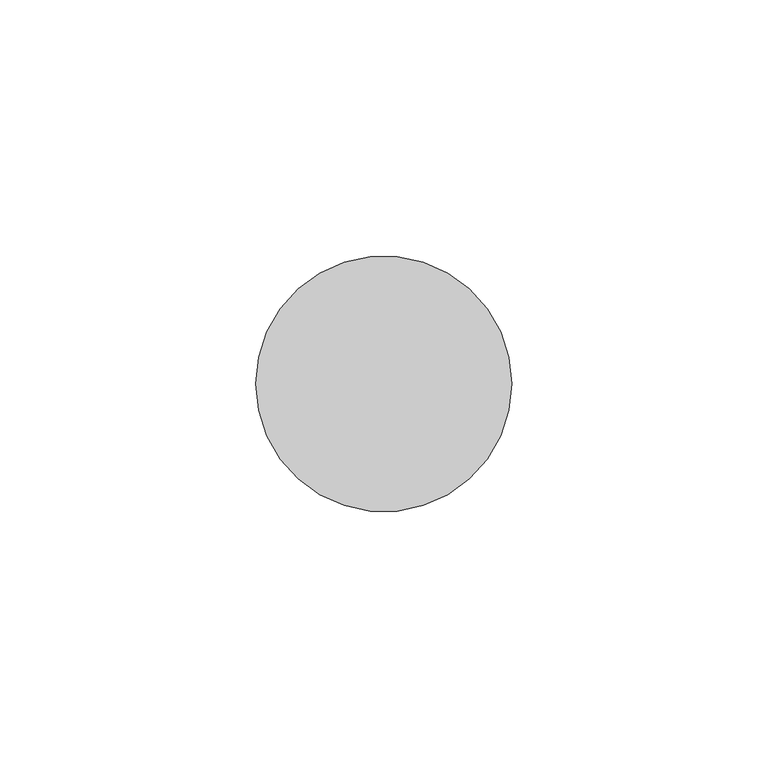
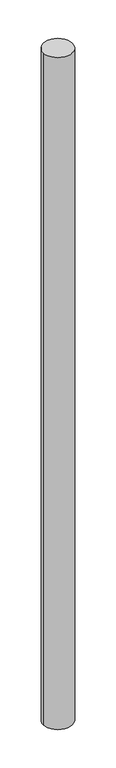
"""IFC4 building model written with IfcOpenShell, lengths in millimetres: member geometry, 圓形豎框 : 25mm 半徑."""

from ifc_helpers import new_model, si_unit, point, frame, origin, origin_2d, place, context, project, spatial, circle_curve, trimmed, segment, composite_curve, outline, extrude, source, transform, mapped, element, save


def member_4ec9f277(model_context):
    return source(origin(), model_context, "Body", "SweptSolid", [
        extrude(outline(composite_curve([segment(trimmed(circle_curve(origin_2d(), 25.0), [point((25.0, 0.0))], [point((-25.0, 0.0))], False, "CARTESIAN"), True, "CONTINUOUS"), segment(trimmed(circle_curve(origin_2d(), 25.0), [point((-25.0, 0.0))], [point((25.0, 0.0))], False, "CARTESIAN"), True, "CONTINUOUS")], self_intersect=False)), frame((0.0, 0.0, -1220.6323156), z_axis=(0.0, 0.0, 1.0), x_axis=(1.0, 0.0, 0.0)), (0.0, 0.0, 1.0), 1220.6323156),
    ])


if __name__ == "__main__":
    model = new_model("IFC4")
    model_context = context("Model", 3, world=origin())
    ifc_project = project(units=[si_unit("LENGTHUNIT", "METRE", prefix="MILLI")], contexts=[model_context])
    site = spatial("IfcSite", under=ifc_project)
    building = spatial("IfcBuilding", under=site)
    placement = place(None, origin())
    member_shape = member_4ec9f277(model_context)
    element("IfcMember", 1, ObjectType="圓形豎框 : 25mm 半徑", at=placement, inside=building, context=model_context, shape_type="MappedRepresentation", body=[
        mapped(member_shape, transform((0.0, 0.0, 0.0), x_axis=(1.0, 0.0, 0.0), y_axis=(0.0, 1.0, 0.0), z_axis=(0.0, 0.0, 1.0))),
    ])
    save(model, "model.ifc")
